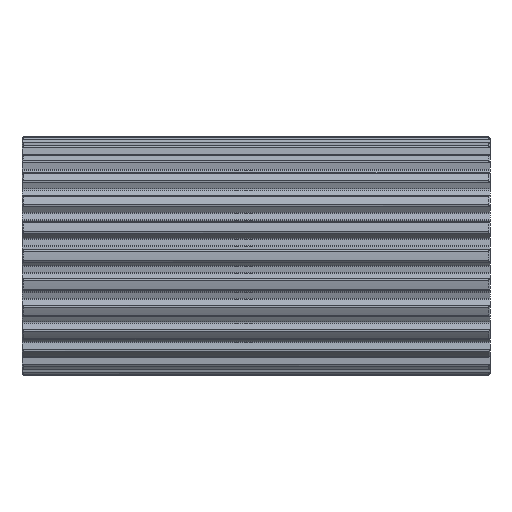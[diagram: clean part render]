
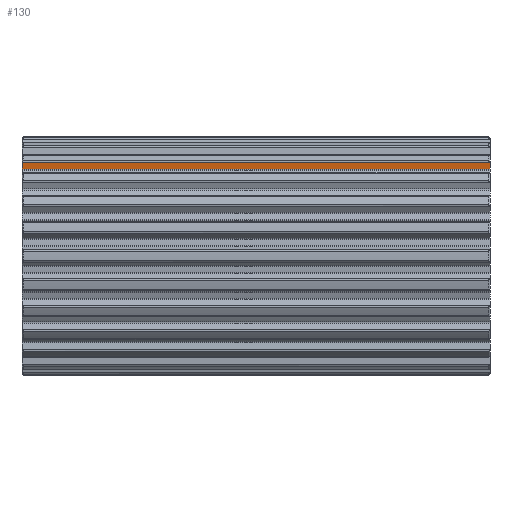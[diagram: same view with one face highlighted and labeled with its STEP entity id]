
A CAD part, front view. The second image highlights one B-rep face of the part: STEP entity #130.
In plain terms, the highlighted planar face has unit normal (0, -0.986, -0.167).
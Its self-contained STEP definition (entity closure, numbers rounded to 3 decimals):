
#130=ADVANCED_FACE('',(#466),#467,.T.);
#466=FACE_OUTER_BOUND('',#1028,.T.);
#467=PLANE('',#1029);
#1028=EDGE_LOOP('',(#1921,#1922,#1923,#1924,#1925,#1926));
#1029=AXIS2_PLACEMENT_3D('',#1927,#1928,#1929);
#1921=ORIENTED_EDGE('',*,*,#4137,.T.);
#1922=ORIENTED_EDGE('',*,*,#4200,.F.);
#1923=ORIENTED_EDGE('',*,*,#4201,.T.);
#1924=ORIENTED_EDGE('',*,*,#4202,.T.);
#1925=ORIENTED_EDGE('',*,*,#4203,.T.);
#1926=ORIENTED_EDGE('',*,*,#4198,.F.);
#1927=CARTESIAN_POINT('',(0.0,-24.459,30.897));
#1928=DIRECTION('',(0.,-0.986,-0.167));
#1929=DIRECTION('',(0.,0.167,-0.986));
#4137=EDGE_CURVE('',#5122,#5120,#5123,.T.);
#4198=EDGE_CURVE('',#5122,#5232,#5233,.T.);
#4200=EDGE_CURVE('',#5235,#5120,#5236,.T.);
#4201=EDGE_CURVE('',#5235,#5237,#5238,.T.);
#4202=EDGE_CURVE('',#5237,#5239,#5240,.T.);
#4203=EDGE_CURVE('',#5239,#5232,#5241,.T.);
#5120=VERTEX_POINT('',#7212);
#5122=VERTEX_POINT('',#7214);
#5123=(B_SPLINE_CURVE(2,(#7216,#7217,#7218),.UNSPECIFIED.,.F.,.F.)B_SPLINE_CURVE_WITH_KNOTS((3,3),(0.0,0.755),.UNSPECIFIED.)RATIONAL_B_SPLINE_CURVE((1.0,1.,1.0))BOUNDED_CURVE()REPRESENTATION_ITEM('')GEOMETRIC_REPRESENTATION_ITEM()CURVE());
#5232=VERTEX_POINT('',#7552);
#5233=LINE('',#7553,#7554);
#5235=VERTEX_POINT('',#7563);
#5236=LINE('',#7564,#7565);
#5237=VERTEX_POINT('',#7566);
#5238=LINE('',#7567,#7568);
#5239=VERTEX_POINT('',#7569);
#5240=LINE('',#7570,#7571);
#5241=(B_SPLINE_CURVE(2,(#7573,#7574,#7575),.UNSPECIFIED.,.F.,.F.)B_SPLINE_CURVE_WITH_KNOTS((3,3),(0.0,0.755),.UNSPECIFIED.)RATIONAL_B_SPLINE_CURVE((1.0,1.,1.0))BOUNDED_CURVE()REPRESENTATION_ITEM('')GEOMETRIC_REPRESENTATION_ITEM()CURVE());
#7212=CARTESIAN_POINT('',(0.0,-24.644,31.988));
#7214=CARTESIAN_POINT('',(0.091,-24.661,32.09));
#7216=CARTESIAN_POINT('',(0.5,-24.738,32.545));
#7217=CARTESIAN_POINT('',(0.248,-24.69,32.265));
#7218=CARTESIAN_POINT('',(0.0,-24.644,31.988));
#7552=CARTESIAN_POINT('',(159.909,-24.661,32.09));
#7553=CARTESIAN_POINT('',(0.0,-24.661,32.09));
#7554=VECTOR('',#9796,1.0);
#7563=CARTESIAN_POINT('',(0.0,-24.257,29.705));
#7564=CARTESIAN_POINT('',(0.0,-24.257,29.705));
#7565=VECTOR('',#9797,1.0);
#7566=CARTESIAN_POINT('',(160.0,-24.257,29.705));
#7567=CARTESIAN_POINT('',(0.0,-24.257,29.705));
#7568=VECTOR('',#9798,1.0);
#7569=CARTESIAN_POINT('',(160.0,-24.644,31.988));
#7570=CARTESIAN_POINT('',(160.0,-24.257,29.705));
#7571=VECTOR('',#9799,1.0);
#7573=CARTESIAN_POINT('',(160.0,-24.644,31.988));
#7574=CARTESIAN_POINT('',(159.752,-24.69,32.265));
#7575=CARTESIAN_POINT('',(159.5,-24.738,32.545));
#9796=DIRECTION('',(1.0,0.,0.));
#9797=DIRECTION('',(0.,-0.167,0.986));
#9798=DIRECTION('',(1.0,0.,0.));
#9799=DIRECTION('',(0.,-0.167,0.986));
